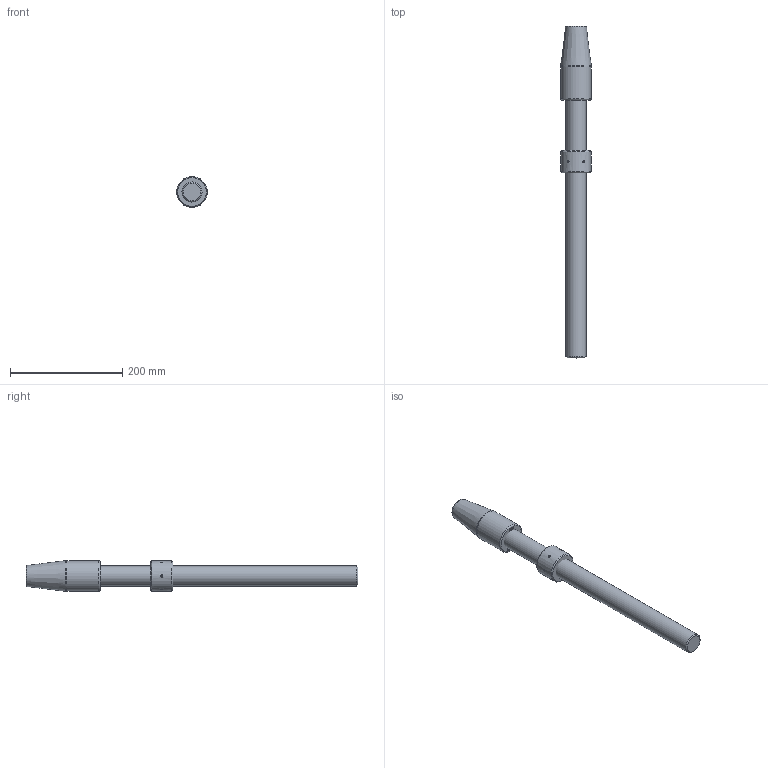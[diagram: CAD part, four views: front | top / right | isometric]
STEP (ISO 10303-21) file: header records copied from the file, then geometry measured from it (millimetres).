
FILE_DESCRIPTION(/* description */ (''),/* implementation_level */ '2;1');
FILE_NAME(/* name */ 'C:\Users\ranca\Desktop\CYM\ARRANGEMENT\CYM016 52 061 0.stp',/* time_stamp */ '2021-04-21T19:08:04+02:00',/* author */ ('ranca'),/* organization */ (''),/* preprocessor_version */ 'ST-DEVELOPER v16.13',/* originating_system */ 'Autodesk Inventor 2018',/* authorisation */ '');
FILE_SCHEMA (('AUTOMOTIVE_DESIGN { 1 0 10303 214 3 1 1 }'));
Length unit declared in the file: millimetre
Products named in the file (4): CYB012-52-061-0; CYM012-52-061-0_ROD; CYC016 52 065 0_CYL SOK_RH; CYM016-41-051-0
Assembly tree (3 placements, depth 2):
  CYB012-52-061-0
    CYM012-52-061-0_ROD
    CYC016 52 065 0_CYL SOK_RH
    CYM016-41-051-0
Bounding box: 55 x 592 x 55 mm (x, y, z)
Volume: 866029.8 mm3; surface area: 93997.2 mm2
Topology: 3 solids, 3 shells, 517 faces, 1390 edges, 924 vertices
Faces by surface type: bspline 272, plane 223, cone 11, cylinder 9, torus 2
Full cylindrical faces by diameter (mm): 4 x6, 36 x1, 55 x2
Entity records: 17647 total; most frequent: CARTESIAN_POINT 6564, ORIENTED_EDGE 2722, EDGE_CURVE 1361, DIRECTION 1332, VERTEX_POINT 918, LINE 784, VECTOR 784, EDGE_LOOP 585
